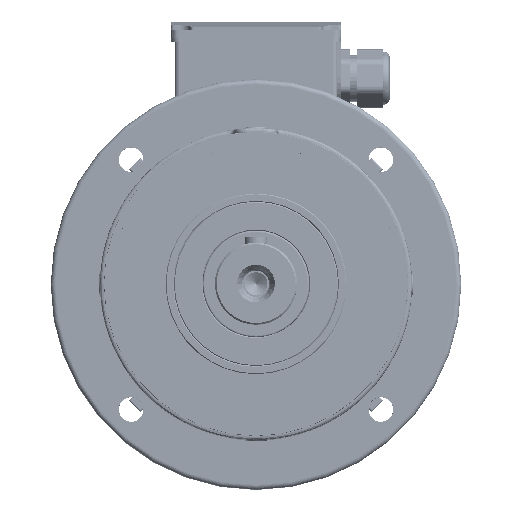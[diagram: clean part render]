
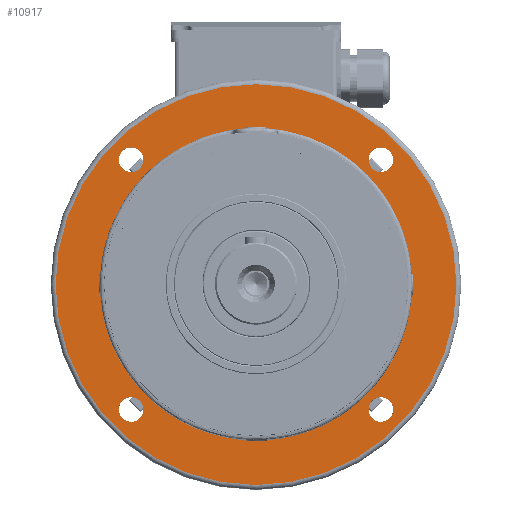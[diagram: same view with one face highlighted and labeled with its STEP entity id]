
A CAD part, top view. The second image highlights one B-rep face of the part: STEP entity #10917.
In plain terms, the highlighted planar face has unit normal (0, 0, 1).
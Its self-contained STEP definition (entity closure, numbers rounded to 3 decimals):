
#10917 = ADVANCED_FACE ( 'NONE', ( #167505, #167776, #167524, #167666, #167594, #167765 ), #114872, .T. ) ;
#13983 = CIRCLE ( 'NONE', #228832, 122. ) ;
#14048 = CIRCLE ( 'NONE', #228862, 7.5 ) ;
#14113 = CIRCLE ( 'NONE', #228794, 7.5 ) ;
#14243 = CIRCLE ( 'NONE', #228727, 7.5 ) ;
#14402 = CIRCLE ( 'NONE', #228715, 7.5 ) ;
#14451 = CIRCLE ( 'NONE', #228743, 92. ) ;
#35347 = DIRECTION ( 'NONE',  ( 0., 0., -1. ) ) ;
#35352 = DIRECTION ( 'NONE',  ( 0., 1., 0. ) ) ;
#35353 = CARTESIAN_POINT ( 'NONE',  ( -76.014, -76.014, -63. ) ) ;
#35356 = DIRECTION ( 'NONE',  ( 0., 0., -1. ) ) ;
#35357 = DIRECTION ( 'NONE',  ( 0., 1., 0. ) ) ;
#35368 = CARTESIAN_POINT ( 'NONE',  ( -76.014, 76.014, -63. ) ) ;
#35402 = CARTESIAN_POINT ( 'NONE',  ( 76.014, 76.014, -63. ) ) ;
#35405 = DIRECTION ( 'NONE',  ( 0., 0., -1. ) ) ;
#35411 = DIRECTION ( 'NONE',  ( 0., 1., 0. ) ) ;
#35552 = CARTESIAN_POINT ( 'NONE',  ( 0., 0., -63. ) ) ;
#35606 = DIRECTION ( 'NONE',  ( 0., 0., 1. ) ) ;
#35628 = DIRECTION ( 'NONE',  ( 0., 1., 0. ) ) ;
#35631 = DIRECTION ( 'NONE',  ( 0., 1., 0. ) ) ;
#35649 = DIRECTION ( 'NONE',  ( 0., 0., -1. ) ) ;
#35651 = CARTESIAN_POINT ( 'NONE',  ( 76.014, -76.014, -63. ) ) ;
#35733 = CARTESIAN_POINT ( 'NONE',  ( 0., 0., -63. ) ) ;
#35763 = DIRECTION ( 'NONE',  ( 0., 1., 0. ) ) ;
#35769 = DIRECTION ( 'NONE',  ( 0., 0., 1. ) ) ;
#54052 = DIRECTION ( 'NONE',  ( 0., 1., 0. ) ) ;
#54066 = CARTESIAN_POINT ( 'NONE',  ( 0., 0., -63. ) ) ;
#54082 = DIRECTION ( 'NONE',  ( 0., 0., 1. ) ) ;
#89994 = EDGE_CURVE ( 'NONE', #144860, #144878, #104909, .T. ) ;
#89998 = EDGE_CURVE ( 'NONE', #144619, #144770, #104968, .T. ) ;
#90030 = EDGE_CURVE ( 'NONE', #144881, #144733, #104964, .T. ) ;
#92288 = AXIS2_PLACEMENT_3D ( 'NONE', #159326, #159333, #159233 ) ;
#92296 = AXIS2_PLACEMENT_3D ( 'NONE', #159297, #159271, #159288 ) ;
#92335 = AXIS2_PLACEMENT_3D ( 'NONE', #159627, #159601, #159742 ) ;
#104909 = CIRCLE ( 'NONE', #92288, 7.5 ) ;
#104964 = CIRCLE ( 'NONE', #92335, 7.5 ) ;
#104968 = CIRCLE ( 'NONE', #92296, 7.5 ) ;
#105867 = CARTESIAN_POINT ( 'NONE',  ( 0., 0., -63. ) ) ;
#105878 = DIRECTION ( 'NONE',  ( 0., 0., 1. ) ) ;
#105885 = DIRECTION ( 'NONE',  ( 0., 1., 0. ) ) ;
#106385 = DIRECTION ( 'NONE',  ( 0., 0., -1. ) ) ;
#106386 = DIRECTION ( 'NONE',  ( 0., 1., 0. ) ) ;
#106389 = CARTESIAN_POINT ( 'NONE',  ( -76.014, 76.014, -63. ) ) ;
#107419 = EDGE_CURVE ( 'NONE', #144853, #144701, #185504, .T. ) ;
#107692 = EDGE_CURVE ( 'NONE', #145241, #145229, #183811, .T. ) ;
#107725 = EDGE_CURVE ( 'NONE', #144984, #145011, #183785, .T. ) ;
#108480 = EDGE_CURVE ( 'NONE', #144701, #144853, #14048, .T. ) ;
#108487 = EDGE_CURVE ( 'NONE', #144733, #144881, #14113, .T. ) ;
#108499 = EDGE_CURVE ( 'NONE', #144770, #144619, #14243, .T. ) ;
#108542 = EDGE_CURVE ( 'NONE', #145229, #145241, #13983, .T. ) ;
#108565 = EDGE_CURVE ( 'NONE', #144878, #144860, #14402, .T. ) ;
#108602 = EDGE_CURVE ( 'NONE', #145011, #144984, #14451, .T. ) ;
#110504 = AXIS2_PLACEMENT_3D ( 'NONE', #114873, #114945, #114886 ) ;
#114872 = PLANE ( 'NONE',  #110504 ) ;
#114873 = CARTESIAN_POINT ( 'NONE',  ( 0., 92., -63. ) ) ;
#114886 = DIRECTION ( 'NONE',  ( 0., 1., 0. ) ) ;
#114945 = DIRECTION ( 'NONE',  ( 0., 0., 1. ) ) ;
#144619 = VERTEX_POINT ( 'NONE', #214935 ) ;
#144701 = VERTEX_POINT ( 'NONE', #214842 ) ;
#144733 = VERTEX_POINT ( 'NONE', #214919 ) ;
#144770 = VERTEX_POINT ( 'NONE', #214854 ) ;
#144853 = VERTEX_POINT ( 'NONE', #215031 ) ;
#144860 = VERTEX_POINT ( 'NONE', #215012 ) ;
#144878 = VERTEX_POINT ( 'NONE', #215049 ) ;
#144881 = VERTEX_POINT ( 'NONE', #215017 ) ;
#144984 = VERTEX_POINT ( 'NONE', #214958 ) ;
#145011 = VERTEX_POINT ( 'NONE', #215047 ) ;
#145229 = VERTEX_POINT ( 'NONE', #215068 ) ;
#145241 = VERTEX_POINT ( 'NONE', #215073 ) ;
#159233 = DIRECTION ( 'NONE',  ( 0., 1., 0. ) ) ;
#159271 = DIRECTION ( 'NONE',  ( 0., 0., -1. ) ) ;
#159288 = DIRECTION ( 'NONE',  ( 0., 1., 0. ) ) ;
#159297 = CARTESIAN_POINT ( 'NONE',  ( 76.014, 76.014, -63. ) ) ;
#159326 = CARTESIAN_POINT ( 'NONE',  ( 76.014, -76.014, -63. ) ) ;
#159333 = DIRECTION ( 'NONE',  ( 0., 0., -1. ) ) ;
#159601 = DIRECTION ( 'NONE',  ( 0., 0., -1. ) ) ;
#159627 = CARTESIAN_POINT ( 'NONE',  ( -76.014, -76.014, -63. ) ) ;
#159742 = DIRECTION ( 'NONE',  ( 0., 1., 0. ) ) ;
#167505 = FACE_BOUND ( 'NONE', #171379, .T. ) ;
#167524 = FACE_BOUND ( 'NONE', #171342, .T. ) ;
#167594 = FACE_BOUND ( 'NONE', #171468, .T. ) ;
#167666 = FACE_BOUND ( 'NONE', #171509, .T. ) ;
#167765 = FACE_OUTER_BOUND ( 'NONE', #171442, .T. ) ;
#167776 = FACE_BOUND ( 'NONE', #171376, .T. ) ;
#171342 = EDGE_LOOP ( 'NONE', ( #251295, #251315 ) ) ;
#171376 = EDGE_LOOP ( 'NONE', ( #251105, #251253 ) ) ;
#171379 = EDGE_LOOP ( 'NONE', ( #251203, #251229 ) ) ;
#171442 = EDGE_LOOP ( 'NONE', ( #251239, #251195 ) ) ;
#171468 = EDGE_LOOP ( 'NONE', ( #251227, #251261 ) ) ;
#171509 = EDGE_LOOP ( 'NONE', ( #251313, #251300 ) ) ;
#183785 = CIRCLE ( 'NONE', #228005, 92. ) ;
#183811 = CIRCLE ( 'NONE', #228170, 122. ) ;
#185504 = CIRCLE ( 'NONE', #227704, 7.5 ) ;
#214842 = CARTESIAN_POINT ( 'NONE',  ( -83.514, 76.014, -63. ) ) ;
#214854 = CARTESIAN_POINT ( 'NONE',  ( 68.514, 76.014, -63. ) ) ;
#214919 = CARTESIAN_POINT ( 'NONE',  ( -83.514, -76.014, -63. ) ) ;
#214935 = CARTESIAN_POINT ( 'NONE',  ( 83.514, 76.014, -63. ) ) ;
#214958 = CARTESIAN_POINT ( 'NONE',  ( 0., 92., -63. ) ) ;
#215012 = CARTESIAN_POINT ( 'NONE',  ( 83.514, -76.014, -63. ) ) ;
#215017 = CARTESIAN_POINT ( 'NONE',  ( -68.514, -76.014, -63. ) ) ;
#215031 = CARTESIAN_POINT ( 'NONE',  ( -68.514, 76.014, -63. ) ) ;
#215047 = CARTESIAN_POINT ( 'NONE',  ( 0., -92., -63. ) ) ;
#215049 = CARTESIAN_POINT ( 'NONE',  ( 68.514, -76.014, -63. ) ) ;
#215068 = CARTESIAN_POINT ( 'NONE',  ( 0., -122., -63. ) ) ;
#215073 = CARTESIAN_POINT ( 'NONE',  ( 0., 122., -63. ) ) ;
#227704 = AXIS2_PLACEMENT_3D ( 'NONE', #106389, #106385, #106386 ) ;
#228005 = AXIS2_PLACEMENT_3D ( 'NONE', #54066, #54082, #54052 ) ;
#228170 = AXIS2_PLACEMENT_3D ( 'NONE', #105867, #105878, #105885 ) ;
#228715 = AXIS2_PLACEMENT_3D ( 'NONE', #35651, #35649, #35631 ) ;
#228727 = AXIS2_PLACEMENT_3D ( 'NONE', #35402, #35405, #35411 ) ;
#228743 = AXIS2_PLACEMENT_3D ( 'NONE', #35733, #35769, #35763 ) ;
#228794 = AXIS2_PLACEMENT_3D ( 'NONE', #35353, #35356, #35357 ) ;
#228832 = AXIS2_PLACEMENT_3D ( 'NONE', #35552, #35606, #35628 ) ;
#228862 = AXIS2_PLACEMENT_3D ( 'NONE', #35368, #35347, #35352 ) ;
#251105 = ORIENTED_EDGE ( 'NONE', *, *, #108565, .T. ) ;
#251195 = ORIENTED_EDGE ( 'NONE', *, *, #108542, .T. ) ;
#251203 = ORIENTED_EDGE ( 'NONE', *, *, #108499, .T. ) ;
#251227 = ORIENTED_EDGE ( 'NONE', *, *, #108602, .F. ) ;
#251229 = ORIENTED_EDGE ( 'NONE', *, *, #89998, .T. ) ;
#251239 = ORIENTED_EDGE ( 'NONE', *, *, #107692, .T. ) ;
#251253 = ORIENTED_EDGE ( 'NONE', *, *, #89994, .T. ) ;
#251261 = ORIENTED_EDGE ( 'NONE', *, *, #107725, .F. ) ;
#251295 = ORIENTED_EDGE ( 'NONE', *, *, #108487, .T. ) ;
#251300 = ORIENTED_EDGE ( 'NONE', *, *, #107419, .T. ) ;
#251313 = ORIENTED_EDGE ( 'NONE', *, *, #108480, .T. ) ;
#251315 = ORIENTED_EDGE ( 'NONE', *, *, #90030, .T. ) ;
